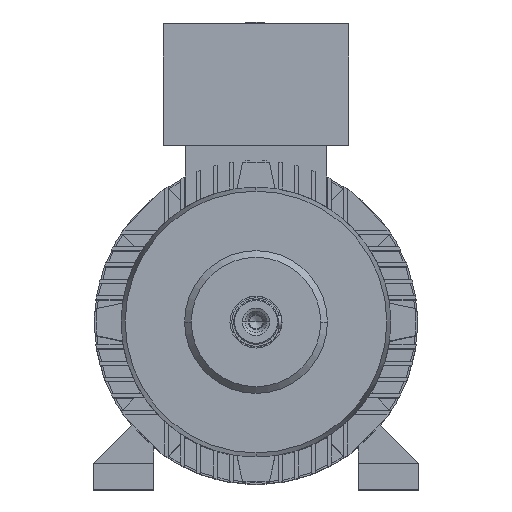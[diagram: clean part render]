
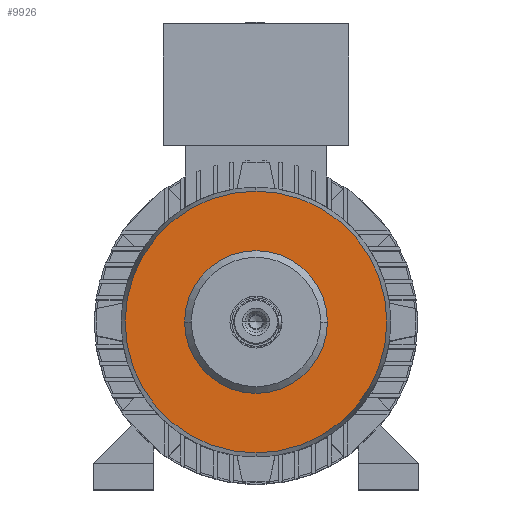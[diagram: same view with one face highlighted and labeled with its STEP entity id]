
A CAD part, top view. The second image highlights one B-rep face of the part: STEP entity #9926.
In plain terms, the highlighted planar face has unit normal (0, 0, 1).
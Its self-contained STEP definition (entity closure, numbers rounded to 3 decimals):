
#9 = VERTEX_POINT ( 'NONE', #16590 ) ;
#458 = FACE_BOUND ( 'NONE', #18559, .T. ) ;
#824 = DIRECTION ( 'NONE',  ( 1., 0., 0. ) ) ;
#1323 = CARTESIAN_POINT ( 'NONE',  ( 0., -140.818, 250.8 ) ) ;
#2525 = DIRECTION ( 'NONE',  ( 1., 0., 0. ) ) ;
#5254 = CIRCLE ( 'NONE', #21995, 140.818 ) ;
#6067 = EDGE_CURVE ( 'NONE', #9104, #9, #23396, .T. ) ;
#6275 = ORIENTED_EDGE ( 'NONE', *, *, #6067, .T. ) ;
#9104 = VERTEX_POINT ( 'NONE', #1323 ) ;
#9235 = FACE_OUTER_BOUND ( 'NONE', #9516, .T. ) ;
#9516 = EDGE_LOOP ( 'NONE', ( #6275, #20458 ) ) ;
#9926 = ADVANCED_FACE ( 'NONE', ( #458, #9235 ), #11830, .F. ) ;
#10418 = DIRECTION ( 'NONE',  ( 0., 0., -1. ) ) ;
#10635 = DIRECTION ( 'NONE',  ( 0., 0., 1. ) ) ;
#11435 = DIRECTION ( 'NONE',  ( 1., 0., 0. ) ) ;
#11740 = DIRECTION ( 'NONE',  ( 0., 0., 1. ) ) ;
#11830 = PLANE ( 'NONE',  #19859 ) ;
#12618 = EDGE_CURVE ( 'NONE', #9, #9104, #5254, .T. ) ;
#13302 = CARTESIAN_POINT ( 'NONE',  ( 0., 0., 250.8 ) ) ;
#13615 = CIRCLE ( 'NONE', #20510, 76.8 ) ;
#13693 = CARTESIAN_POINT ( 'NONE',  ( 0., 0., 250.8 ) ) ;
#13817 = DIRECTION ( 'NONE',  ( 0., 0., -1. ) ) ;
#14117 = VERTEX_POINT ( 'NONE', #17438 ) ;
#15092 = AXIS2_PLACEMENT_3D ( 'NONE', #22174, #10635, #23761 ) ;
#15347 = DIRECTION ( 'NONE',  ( 0., 0., -1. ) ) ;
#15579 = EDGE_CURVE ( 'NONE', #14117, #23645, #13615, .T. ) ;
#16590 = CARTESIAN_POINT ( 'NONE',  ( 0., 140.818, 250.8 ) ) ;
#17390 = CARTESIAN_POINT ( 'NONE',  ( 0., 140.818, 250.8 ) ) ;
#17438 = CARTESIAN_POINT ( 'NONE',  ( 76.8, 0., 250.8 ) ) ;
#18320 = CARTESIAN_POINT ( 'NONE',  ( -76.8, 0., 250.8 ) ) ;
#18559 = EDGE_LOOP ( 'NONE', ( #21976, #24375 ) ) ;
#19679 = AXIS2_PLACEMENT_3D ( 'NONE', #21242, #15347, #11435 ) ;
#19859 = AXIS2_PLACEMENT_3D ( 'NONE', #17390, #13817, #2525 ) ;
#20458 = ORIENTED_EDGE ( 'NONE', *, *, #12618, .T. ) ;
#20510 = AXIS2_PLACEMENT_3D ( 'NONE', #13693, #10418, #824 ) ;
#21117 = DIRECTION ( 'NONE',  ( 0., -1., 0. ) ) ;
#21242 = CARTESIAN_POINT ( 'NONE',  ( 0., 0., 250.8 ) ) ;
#21976 = ORIENTED_EDGE ( 'NONE', *, *, #15579, .T. ) ;
#21995 = AXIS2_PLACEMENT_3D ( 'NONE', #13302, #11740, #21117 ) ;
#22174 = CARTESIAN_POINT ( 'NONE',  ( 0., 0., 250.8 ) ) ;
#23396 = CIRCLE ( 'NONE', #15092, 140.818 ) ;
#23404 = EDGE_CURVE ( 'NONE', #23645, #14117, #23522, .T. ) ;
#23522 = CIRCLE ( 'NONE', #19679, 76.8 ) ;
#23645 = VERTEX_POINT ( 'NONE', #18320 ) ;
#23761 = DIRECTION ( 'NONE',  ( 0., -1., 0. ) ) ;
#24375 = ORIENTED_EDGE ( 'NONE', *, *, #23404, .T. ) ;
